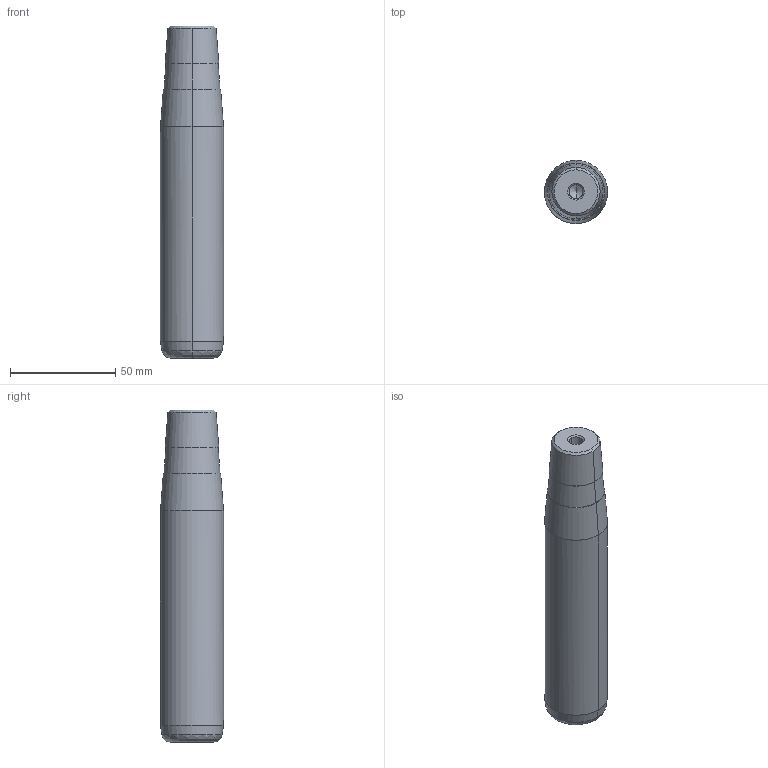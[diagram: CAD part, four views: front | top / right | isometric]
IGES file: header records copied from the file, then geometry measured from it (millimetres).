
Start section: START RECORD GO HERE.
Global section: file name: 722-30x125x158.igs; native system: DASSAULT SYSTEMES CATIA V5 R20 - www.3ds.com; preprocessor: CATIA Version 5 Release 20 ; author: Utente; organization: NB04-ASUS; date: 20210108.172056; units: millimetre
Bounding box: 30 x 30 x 158 mm (x, y, z)
Surface area: 16306.7 mm2 (no closed solid volume)
Topology: 0 solids, 0 shells, 32 faces, 192 edges, 188 vertices
Faces by surface type: revolution 30, plane 2
